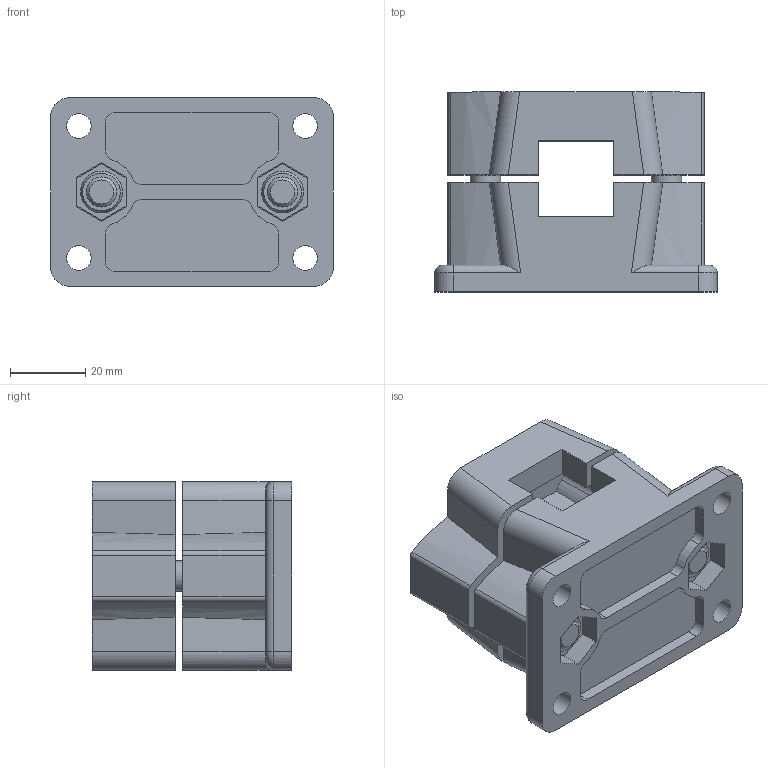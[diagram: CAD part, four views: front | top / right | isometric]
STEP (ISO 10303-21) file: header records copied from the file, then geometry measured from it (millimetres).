
FILE_DESCRIPTION( ( 'STEP AP203' ), '1' );
FILE_NAME( 'C:/Temp/Ganter_Step_05_03_2020/data/3_7/147/Flanged connector clamp GN 147-V20-2-SW.stp', '2020-03-12T14:20:24', ( 'License CC BY-ND 4.0' ), ( 'CADENAS' ), ' ', 'PARTsolutions', ' ' );
FILE_SCHEMA( ( 'CONFIG_CONTROL_DESIGN' ) );
Length unit declared in the file: millimetre
Products named in the file (1): _Flanged connector clamp GN 147-V20-2-SW
Bounding box: 75 x 53 x 50 mm (x, y, z)
Volume: 84519.7 mm3; surface area: 36092.4 mm2
Topology: 1 solids, 1 shells, 230 faces, 616 edges, 410 vertices
Faces by surface type: plane 134, cylinder 86, torus 6, cone 4
Full cylindrical faces by diameter (mm): 6.5 x4, 8 x4, 8.5 x4, 13 x2
Entity records: 7138 total; most frequent: CARTESIAN_POINT 1277, DIRECTION 1232, ORIENTED_EDGE 1172, EDGE_CURVE 586, AXIS2_PLACEMENT_3D 419, VERTEX_POINT 400, LINE 394, VECTOR 394
